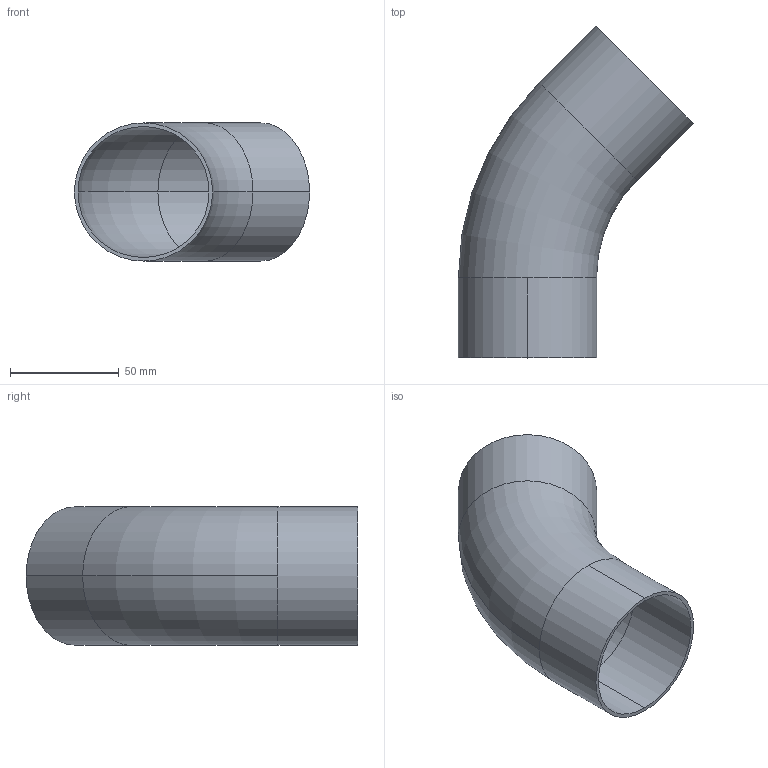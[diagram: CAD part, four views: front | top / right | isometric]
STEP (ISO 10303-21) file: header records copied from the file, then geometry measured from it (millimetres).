
FILE_DESCRIPTION (( 'STEP AP203' ), '1' );
FILE_NAME ('E2KS2.5.STEP', '2018-04-30T15:49:13', ( 'vneprd' ), ( 'Microsoft' ), 'SwSTEP 2.0', 'SolidWorks 2014', '' );
FILE_SCHEMA (( 'CONFIG_CONTROL_DESIGN' ));
Length unit declared in the file: inch
Products named in the file (1): E2KS2.5
Bounding box: 108.09 x 152.55 x 63.5 mm (x, y, z)
Volume: 47579.5 mm3; surface area: 58278.8 mm2
Topology: 1 solids, 1 shells, 14 faces, 32 edges, 20 vertices
Faces by surface type: cylinder 8, torus 4, plane 2
Entity records: 491 total; most frequent: DIRECTION 86, CARTESIAN_POINT 67, ORIENTED_EDGE 64, AXIS2_PLACEMENT_3D 39, EDGE_CURVE 32, CIRCLE 24, VERTEX_POINT 20, EDGE_LOOP 16
